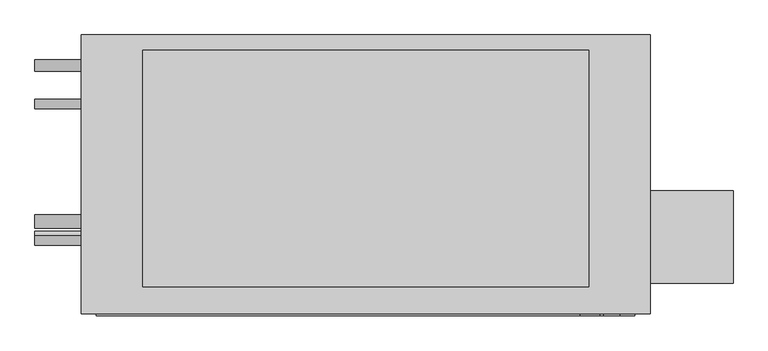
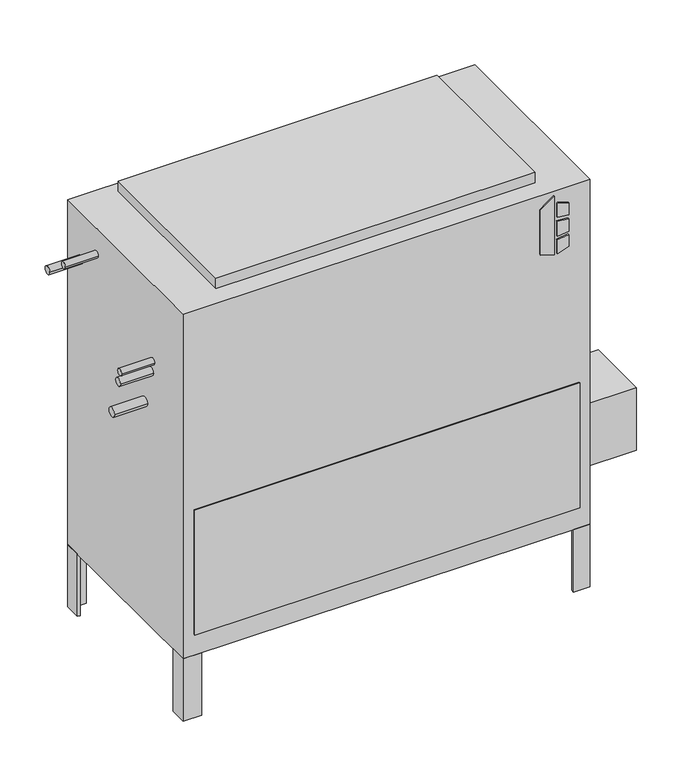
"""IFC4 building model written with IfcOpenShell, lengths in millimetres: proxy geometry, Concealed_High_Capacity_Vertical_Fan_Coil_Unit_-_VEY_-_IEC_-_4-Pipe_LH_2022 : Size 12 - 277v/60Hz/1Ph - 4/2 Coil."""

from ifc_helpers import new_model, si_unit, point, frame, frame_2d, origin, origin_with_axes, place, context, project, spatial, polyline, circle_curve, trimmed, segment, composite_curve, outline, extrude, source, transform, mapped, element, save


def mechanical_equipment_d625a45f(model_context):
    return source(origin(), model_context, "Body", "SweptSolid", [
        extrude(outline(polyline([(698.9230703, 506.4868862), (688.975, 538.6602728), (831.1459244, 538.6602728), (808.1239183, 506.4868862), (698.9230703, 506.4868862)])), frame((0.0, -471.4875, 0.0), z_axis=(0.0, 1.0, 0.0), x_axis=(0.0, 0.0, 1.0)), (0.0, 0.0, 1.0), 3.175),
        extrude(outline(polyline([(777.9223557, 545.4186058), (774.7199632, 571.5), (803.9488042, 571.5), (812.0132193, 545.4186058), (777.9223557, 545.4186058)])), frame((0.0, -471.4875, 0.0), z_axis=(0.0, 1.0, 0.0), x_axis=(0.0, 0.0, 1.0)), (0.0, 0.0, 1.0), 3.175),
        extrude(outline(polyline([(726.0588288, 571.5), (722.3933279, 545.4186058), (688.975, 545.4186058), (697.6092372, 571.5), (726.0588288, 571.5)])), frame((0.0, -471.4875, 0.0), z_axis=(0.0, 1.0, 0.0), x_axis=(0.0, 0.0, 1.0)), (0.0, 0.0, 1.0), 3.175),
        extrude(outline(polyline([(765.3739903, 571.5), (767.6558166, 545.4186058), (731.7182681, 545.4186058), (734.4595331, 571.5), (765.3739903, 571.5)])), frame((0.0, -471.4875, 0.0), z_axis=(0.0, 1.0, 0.0), x_axis=(0.0, 0.0, 1.0)), (0.0, 0.0, 1.0), 3.175),
        extrude(outline(polyline([(758.825, -265.1125), (758.825, -417.5125), (622.3, -417.5125), (622.3, -265.1125), (758.825, -265.1125)])), frame((0.0, 0.0, 101.6), z_axis=(0.0, 0.0, 1.0), x_axis=(1.0, 0.0, 0.0)), (0.0, 0.0, 1.0), 152.4),
        extrude(outline(polyline([(622.3, -46.0375), (615.95, -46.0375), (615.95, -14.2875), (584.2, -14.2875), (584.2, -7.9375), (622.3, -7.9375), (622.3, -46.0375)])), frame((0.0, 0.0, -152.4), z_axis=(0.0, 0.0, 1.0), x_axis=(1.0, 0.0, 0.0)), (0.0, 0.0, 1.0), 152.4),
        extrude(outline(polyline([(-279.4, -7.9375), (-279.4, -14.2875), (-311.15, -14.2875), (-311.15, -46.0375), (-317.5, -46.0375), (-317.5, -7.9375), (-279.4, -7.9375)])), frame((0.0, 0.0, -152.4), z_axis=(0.0, 0.0, 1.0), x_axis=(1.0, 0.0, 0.0)), (0.0, 0.0, 1.0), 152.4),
        extrude(outline(polyline([(584.2, -468.3125), (584.2, -461.9625), (615.95, -461.9625), (615.95, -430.2125), (622.3, -430.2125), (622.3, -468.3125), (584.2, -468.3125)])), frame((0.0, 0.0, -152.4), z_axis=(0.0, 0.0, 1.0), x_axis=(1.0, 0.0, 0.0)), (0.0, 0.0, 1.0), 152.4),
        extrude(outline(polyline([(-317.5, -428.1199163), (-311.15, -428.1199163), (-311.15, -461.9625), (-274.0318533, -461.9625), (-274.0318533, -468.3125), (-317.5, -468.3125), (-317.5, -428.1199163)])), frame((0.0, 0.0, -152.4), z_axis=(0.0, 0.0, 1.0), x_axis=(1.0, 0.0, 0.0)), (0.0, 0.0, 1.0), 152.4),
        extrude(outline(polyline([(520.7, -33.3375), (520.7, -423.8625), (-215.9, -423.8625), (-215.9, -33.3375), (520.7, -33.3375)])), frame((0.0, 0.0, 841.375), z_axis=(0.0, 0.0, 1.0), x_axis=(1.0, 0.0, 0.0)), (0.0, 0.0, 1.0), 25.4),
        extrude(outline(polyline([(596.9, -471.4875), (-292.1, -471.4875), (-292.1, -468.3125), (596.9, -468.3125), (596.9, -471.4875)])), frame((0.0, 0.0, 50.8), z_axis=(0.0, 0.0, 1.0), x_axis=(1.0, 0.0, 0.0)), (0.0, 0.0, 1.0), 304.8),
        extrude(outline(composite_curve([segment(trimmed(circle_curve(frame_2d((-122.2375, 777.875)), 7.9375), [point((-130.175, 777.875))], [point((-114.3, 777.875))], False, "CARTESIAN"), True, "CONTINUOUS"), segment(trimmed(circle_curve(frame_2d((-122.2375, 777.875)), 7.9375), [point((-114.3, 777.875))], [point((-130.175, 777.875))], False, "CARTESIAN"), True, "CONTINUOUS")], self_intersect=False)), frame((-393.7, 0.0, 0.0), z_axis=(1.0, 0.0, 0.0), x_axis=(0.0, 1.0, 0.0)), (0.0, 0.0, 1.0), 76.2),
        extrude(outline(composite_curve([segment(trimmed(circle_curve(frame_2d((-347.3848135, 653.2230057)), 7.9375), [point((-355.3223135, 653.2230057))], [point((-339.4473135, 653.2230057))], False, "CARTESIAN"), True, "CONTINUOUS"), segment(trimmed(circle_curve(frame_2d((-347.3848135, 653.2230057)), 7.9375), [point((-339.4473135, 653.2230057))], [point((-355.3223135, 653.2230057))], False, "CARTESIAN"), True, "CONTINUOUS")], self_intersect=False)), frame((-393.7, 0.0, 0.0), z_axis=(1.0, 0.0, 0.0), x_axis=(0.0, 1.0, 0.0)), (0.0, 0.0, 1.0), 76.2),
        extrude(outline(composite_curve([segment(trimmed(circle_curve(frame_2d((-58.7375, 727.075)), 9.525), [point((-68.2625, 727.075))], [point((-49.2125, 727.075))], False, "CARTESIAN"), True, "CONTINUOUS"), segment(trimmed(circle_curve(frame_2d((-58.7375, 727.075)), 9.525), [point((-49.2125, 727.075))], [point((-68.2625, 727.075))], False, "CARTESIAN"), True, "CONTINUOUS")], self_intersect=False)), frame((-393.7, 0.0, 0.0), z_axis=(1.0, 0.0, 0.0), x_axis=(0.0, 1.0, 0.0)), (0.0, 0.0, 1.0), 76.2),
        extrude(outline(composite_curve([segment(trimmed(circle_curve(frame_2d((-341.3125, 625.475)), 9.525), [point((-350.8375, 625.475))], [point((-331.7875, 625.475))], False, "CARTESIAN"), True, "CONTINUOUS"), segment(trimmed(circle_curve(frame_2d((-341.3125, 625.475)), 9.525), [point((-331.7875, 625.475))], [point((-350.8375, 625.475))], False, "CARTESIAN"), True, "CONTINUOUS")], self_intersect=False)), frame((-393.7, 0.0, 0.0), z_axis=(1.0, 0.0, 0.0), x_axis=(0.0, 1.0, 0.0)), (0.0, 0.0, 1.0), 76.2),
        extrude(outline(composite_curve([segment(trimmed(circle_curve(frame_2d((-315.9125, 536.575)), 11.1125), [point((-327.025, 536.575))], [point((-304.8, 536.575))], False, "CARTESIAN"), True, "CONTINUOUS"), segment(trimmed(circle_curve(frame_2d((-315.9125, 536.575)), 11.1125), [point((-304.8, 536.575))], [point((-327.025, 536.575))], False, "CARTESIAN"), True, "CONTINUOUS")], self_intersect=False)), frame((-393.7, 0.0, 0.0), z_axis=(1.0, 0.0, 0.0), x_axis=(0.0, 1.0, 0.0)), (0.0, 0.0, 1.0), 76.2),
        extrude(outline(polyline([(622.3, -7.9375), (622.3, -468.3125), (-317.5, -468.3125), (-317.5, -7.9375), (622.3, -7.9375)])), origin_with_axes(), (0.0, 0.0, 1.0), 841.375),
    ])


if __name__ == "__main__":
    model = new_model("IFC4")
    model_context = context("Model", 3, world=origin())
    ifc_project = project(units=[si_unit("LENGTHUNIT", "METRE", prefix="MILLI")], contexts=[model_context])
    site = spatial("IfcSite", under=ifc_project)
    building = spatial("IfcBuilding", under=site)
    placement = place(None, origin())
    mechanical_equipment_shape = mechanical_equipment_d625a45f(model_context)
    element("IfcBuildingElementProxy", 1, Name="Concealed_High_Capacity_Vertical_Fan_Coil_Unit_-_VEY_-_IEC_-_4-Pipe_LH_2022 : Size 12 - 277v/60Hz/1Ph - 4/2 Coil", ObjectType="Concealed_High_Capacity_Vertical_Fan_Coil_Unit_-_VEY_-_IEC_-_4-Pipe_LH_2022 : Size 12 - 277v/60Hz/1Ph - 4/2 Coil", at=placement, inside=building, context=model_context, shape_type="MappedRepresentation", body=[
        mapped(mechanical_equipment_shape, transform((0.0, 0.0, 0.0), x_axis=(1.0, 0.0, 0.0), y_axis=(0.0, 1.0, 0.0), z_axis=(0.0, 0.0, 1.0))),
    ])
    save(model, "model.ifc")
